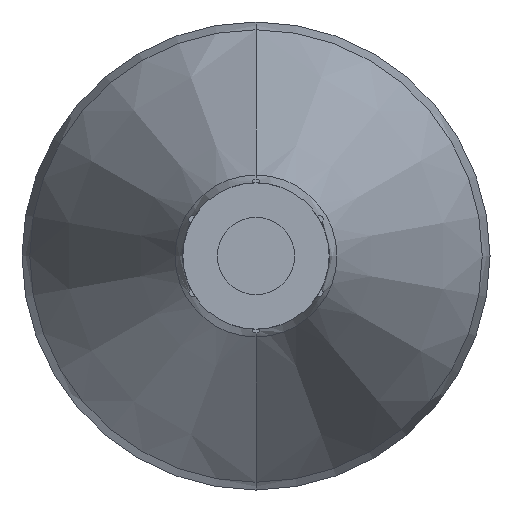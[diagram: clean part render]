
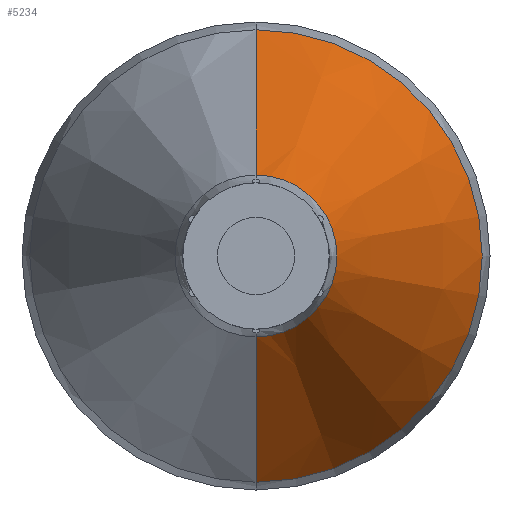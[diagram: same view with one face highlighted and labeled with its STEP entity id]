
A CAD part, front view. The second image highlights one B-rep face of the part: STEP entity #5234.
In plain terms, the highlighted conical face has half-angle 21 degrees and reference radius 49.113 mm.
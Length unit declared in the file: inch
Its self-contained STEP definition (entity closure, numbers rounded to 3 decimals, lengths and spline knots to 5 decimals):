
#559 = CARTESIAN_POINT ( 'NONE',  ( 0., 8.57697, 0. ) ) ;
#648 = CIRCLE ( 'NONE', #4506, 0.69142 ) ;
#899 = ORIENTED_EDGE ( 'NONE', *, *, #3055, .T. ) ;
#932 = CIRCLE ( 'NONE', #3821, 1.93358 ) ;
#1030 = DIRECTION ( 'NONE',  ( 0., 1., 0. ) ) ;
#1108 = AXIS2_PLACEMENT_3D ( 'NONE', #559, #5649, #2829 ) ;
#1191 = LINE ( 'NONE', #6519, #2712 ) ;
#1224 = CARTESIAN_POINT ( 'NONE',  ( 0., 8.57697, 0. ) ) ;
#1352 = ORIENTED_EDGE ( 'NONE', *, *, #6809, .F. ) ;
#1425 = CONICAL_SURFACE ( 'NONE', #1108, 1.93358, 0.367 ) ;
#1467 = LINE ( 'NONE', #7151, #7336 ) ;
#1603 = FACE_OUTER_BOUND ( 'NONE', #4974, .T. ) ;
#1800 = DIRECTION ( 'NONE',  ( 0., 0., -1. ) ) ;
#2688 = CARTESIAN_POINT ( 'NONE',  ( 0., 5.34103, 0.69142 ) ) ;
#2712 = VECTOR ( 'NONE', #6472, 39.37008 ) ;
#2829 = DIRECTION ( 'NONE',  ( 0., 0., 1. ) ) ;
#3055 = EDGE_CURVE ( 'NONE', #7235, #7215, #648, .T. ) ;
#3821 = AXIS2_PLACEMENT_3D ( 'NONE', #1224, #5190, #1800 ) ;
#4420 = CARTESIAN_POINT ( 'NONE',  ( 0., 5.34103, 0. ) ) ;
#4506 = AXIS2_PLACEMENT_3D ( 'NONE', #4420, #1030, #4982 ) ;
#4530 = ORIENTED_EDGE ( 'NONE', *, *, #6668, .T. ) ;
#4619 = VERTEX_POINT ( 'NONE', #4823 ) ;
#4669 = VERTEX_POINT ( 'NONE', #5564 ) ;
#4823 = CARTESIAN_POINT ( 'NONE',  ( 0., 8.57697, 1.93358 ) ) ;
#4866 = DIRECTION ( 'NONE',  ( 0., 0.934, -0.358 ) ) ;
#4974 = EDGE_LOOP ( 'NONE', ( #899, #4530, #1352, #5212 ) ) ;
#4982 = DIRECTION ( 'NONE',  ( 0., 0., 1. ) ) ;
#5190 = DIRECTION ( 'NONE',  ( 0., 1., 0. ) ) ;
#5212 = ORIENTED_EDGE ( 'NONE', *, *, #7055, .F. ) ;
#5234 = ADVANCED_FACE ( 'NONE', ( #1603 ), #1425, .T. ) ;
#5564 = CARTESIAN_POINT ( 'NONE',  ( 0., 8.57697, -1.93358 ) ) ;
#5649 = DIRECTION ( 'NONE',  ( 0., 1., 0. ) ) ;
#6472 = DIRECTION ( 'NONE',  ( 0., 0.934, 0.358 ) ) ;
#6519 = CARTESIAN_POINT ( 'NONE',  ( 0., 8.57697, 1.93358 ) ) ;
#6639 = CARTESIAN_POINT ( 'NONE',  ( 0., 5.34103, -0.69142 ) ) ;
#6668 = EDGE_CURVE ( 'NONE', #7215, #4669, #1467, .T. ) ;
#6809 = EDGE_CURVE ( 'NONE', #4619, #4669, #932, .T. ) ;
#7055 = EDGE_CURVE ( 'NONE', #7235, #4619, #1191, .T. ) ;
#7151 = CARTESIAN_POINT ( 'NONE',  ( 0., 8.57697, -1.93358 ) ) ;
#7215 = VERTEX_POINT ( 'NONE', #6639 ) ;
#7235 = VERTEX_POINT ( 'NONE', #2688 ) ;
#7336 = VECTOR ( 'NONE', #4866, 39.37008 ) ;
